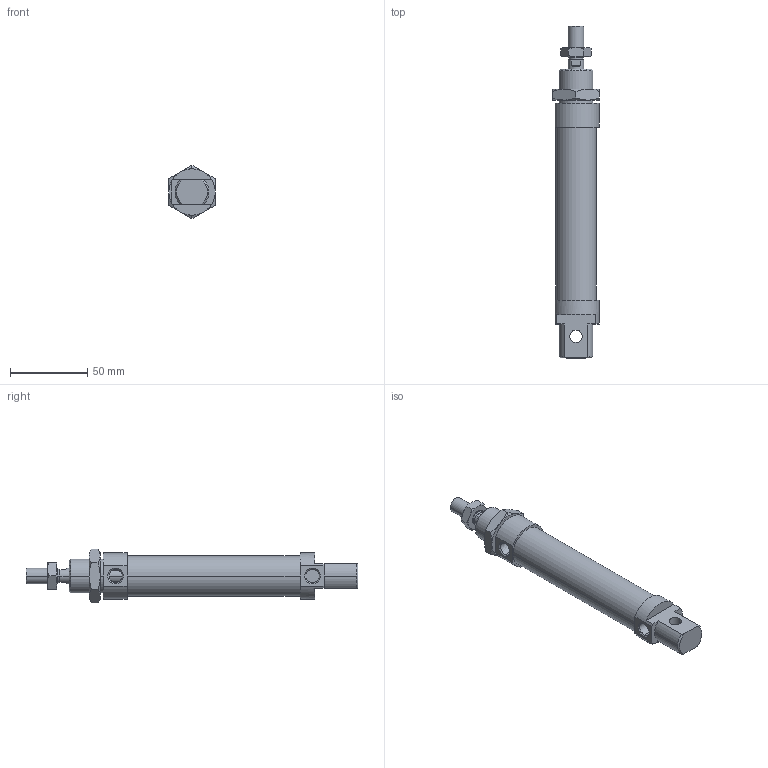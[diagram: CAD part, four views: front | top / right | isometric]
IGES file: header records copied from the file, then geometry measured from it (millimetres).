
Global section: file name: No Iges File Name specified; native system: AutoDesk Inventor R6.0; preprocessor: AutoDesk Inventor Iges Exporter R6.0; author: No Author specified; organization: No Organization specified; date: 20030407.191530; units: millimetre
Bounding box: 30 x 215 x 34.64 mm (x, y, z)
Volume: 101453.1 mm3; surface area: 28382.3 mm2
Topology: 4 solids, 4 shells, 124 faces, 281 edges, 170 vertices
Faces by surface type: plane 41, cone 38, bspline 21, cylinder 18, revolution 6
